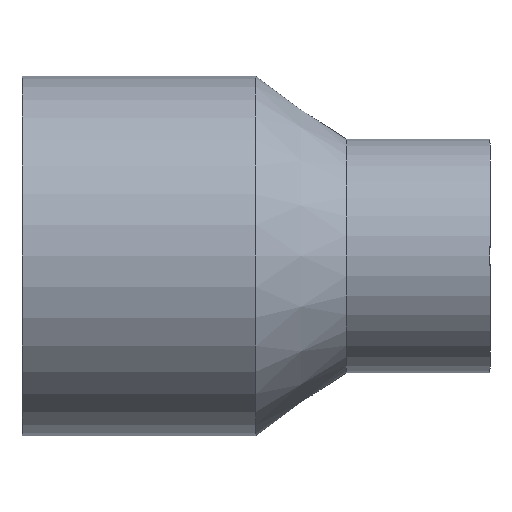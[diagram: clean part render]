
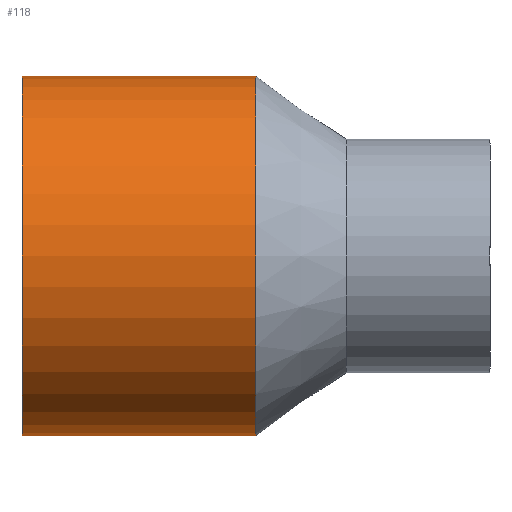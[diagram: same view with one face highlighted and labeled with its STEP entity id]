
A CAD part, front view. The second image highlights one B-rep face of the part: STEP entity #118.
In plain terms, the highlighted cylindrical face has radius 20 mm (diameter 40 mm), a full revolution.
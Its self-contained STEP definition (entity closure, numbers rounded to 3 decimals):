
#18=CYLINDRICAL_SURFACE('',#134,20.);
#25=FACE_BOUND('',#49,.T.);
#35=FACE_OUTER_BOUND('',#48,.T.);
#48=EDGE_LOOP('',(#98));
#49=EDGE_LOOP('',(#99));
#65=CIRCLE('',#133,20.);
#66=CIRCLE('',#135,20.);
#75=VERTEX_POINT('',#199);
#76=VERTEX_POINT('',#202);
#85=EDGE_CURVE('',#75,#75,#65,.T.);
#86=EDGE_CURVE('',#76,#76,#66,.T.);
#98=ORIENTED_EDGE('',*,*,#85,.T.);
#99=ORIENTED_EDGE('',*,*,#86,.F.);
#118=ADVANCED_FACE('',(#35,#25),#18,.T.);
#133=AXIS2_PLACEMENT_3D('',#200,#161,#162);
#134=AXIS2_PLACEMENT_3D('',#201,#163,#164);
#135=AXIS2_PLACEMENT_3D('',#203,#165,#166);
#161=DIRECTION('center_axis',(-1.,0.,0.));
#162=DIRECTION('ref_axis',(0.,0.,1.));
#163=DIRECTION('center_axis',(-1.,0.,0.));
#164=DIRECTION('ref_axis',(0.,-1.,0.));
#165=DIRECTION('center_axis',(-1.,0.,0.));
#166=DIRECTION('ref_axis',(0.,0.,1.));
#199=CARTESIAN_POINT('',(0.,-20.,0.));
#200=CARTESIAN_POINT('Origin',(0.,0.,
0.));
#201=CARTESIAN_POINT('Origin',(-13.,0.,0.));
#202=CARTESIAN_POINT('',(-26.,-20.,0.));
#203=CARTESIAN_POINT('Origin',(-26.,0.,0.));
